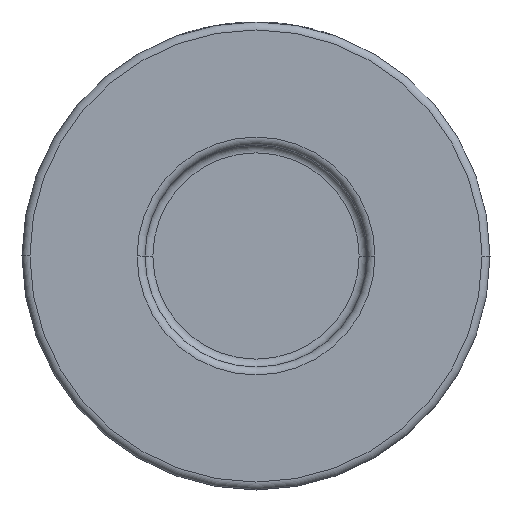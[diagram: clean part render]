
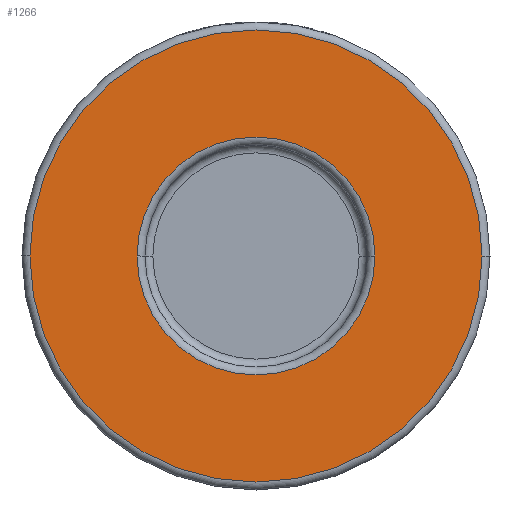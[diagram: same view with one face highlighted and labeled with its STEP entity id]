
A CAD part, front view. The second image highlights one B-rep face of the part: STEP entity #1266.
In plain terms, the highlighted planar face has unit normal (0, -1, 0).
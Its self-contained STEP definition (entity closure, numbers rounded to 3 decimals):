
#10 = CARTESIAN_POINT ( 'NONE',  ( 0., -19., 0. ) ) ;
#15 = DIRECTION ( 'NONE',  ( 0., 1., 0. ) ) ;
#33 = AXIS2_PLACEMENT_3D ( 'NONE', #269, #15, #1656 ) ;
#175 = CIRCLE ( 'NONE', #3213, 28.5 ) ;
#269 = CARTESIAN_POINT ( 'NONE',  ( 0., -19., 0. ) ) ;
#539 = CIRCLE ( 'NONE', #33, 15. ) ;
#751 = AXIS2_PLACEMENT_3D ( 'NONE', #10, #4459, #1394 ) ;
#815 = EDGE_CURVE ( 'NONE', #2543, #1250, #175, .T. ) ;
#870 = EDGE_CURVE ( 'NONE', #2695, #2582, #1409, .T. ) ;
#946 = PLANE ( 'NONE',  #1554 ) ;
#1009 = ORIENTED_EDGE ( 'NONE', *, *, #870, .T. ) ;
#1081 = DIRECTION ( 'NONE',  ( 0., -1., 0. ) ) ;
#1193 = AXIS2_PLACEMENT_3D ( 'NONE', #2452, #4117, #1363 ) ;
#1250 = VERTEX_POINT ( 'NONE', #1625 ) ;
#1266 = ADVANCED_FACE ( 'NONE', ( #4390, #1286 ), #946, .T. ) ;
#1283 = ORIENTED_EDGE ( 'NONE', *, *, #3248, .T. ) ;
#1286 = FACE_OUTER_BOUND ( 'NONE', #3723, .T. ) ;
#1363 = DIRECTION ( 'NONE',  ( 1., 0., 0. ) ) ;
#1394 = DIRECTION ( 'NONE',  ( 1., 0., 0. ) ) ;
#1399 = EDGE_CURVE ( 'NONE', #1250, #2543, #3145, .T. ) ;
#1409 = CIRCLE ( 'NONE', #751, 15. ) ;
#1421 = DIRECTION ( 'NONE',  ( 1., 0., 0. ) ) ;
#1554 = AXIS2_PLACEMENT_3D ( 'NONE', #2837, #2566, #3835 ) ;
#1625 = CARTESIAN_POINT ( 'NONE',  ( 28.5, -19., 0. ) ) ;
#1656 = DIRECTION ( 'NONE',  ( 1., 0., 0. ) ) ;
#2391 = ORIENTED_EDGE ( 'NONE', *, *, #815, .T. ) ;
#2452 = CARTESIAN_POINT ( 'NONE',  ( 0., -19., 0. ) ) ;
#2543 = VERTEX_POINT ( 'NONE', #4446 ) ;
#2549 = EDGE_LOOP ( 'NONE', ( #1283, #1009 ) ) ;
#2566 = DIRECTION ( 'NONE',  ( 0., -1., 0. ) ) ;
#2582 = VERTEX_POINT ( 'NONE', #3907 ) ;
#2695 = VERTEX_POINT ( 'NONE', #3418 ) ;
#2797 = ORIENTED_EDGE ( 'NONE', *, *, #1399, .T. ) ;
#2837 = CARTESIAN_POINT ( 'NONE',  ( 29.5, -19., 0. ) ) ;
#3133 = CARTESIAN_POINT ( 'NONE',  ( 0., -19., 0. ) ) ;
#3145 = CIRCLE ( 'NONE', #1193, 28.5 ) ;
#3213 = AXIS2_PLACEMENT_3D ( 'NONE', #3133, #1081, #1421 ) ;
#3248 = EDGE_CURVE ( 'NONE', #2582, #2695, #539, .T. ) ;
#3418 = CARTESIAN_POINT ( 'NONE',  ( -15., -19., 0. ) ) ;
#3723 = EDGE_LOOP ( 'NONE', ( #2797, #2391 ) ) ;
#3835 = DIRECTION ( 'NONE',  ( 1., 0., 0. ) ) ;
#3907 = CARTESIAN_POINT ( 'NONE',  ( 15., -19., 0. ) ) ;
#4117 = DIRECTION ( 'NONE',  ( 0., -1., 0. ) ) ;
#4390 = FACE_BOUND ( 'NONE', #2549, .T. ) ;
#4446 = CARTESIAN_POINT ( 'NONE',  ( -28.5, -19., 0. ) ) ;
#4459 = DIRECTION ( 'NONE',  ( 0., 1., 0. ) ) ;
